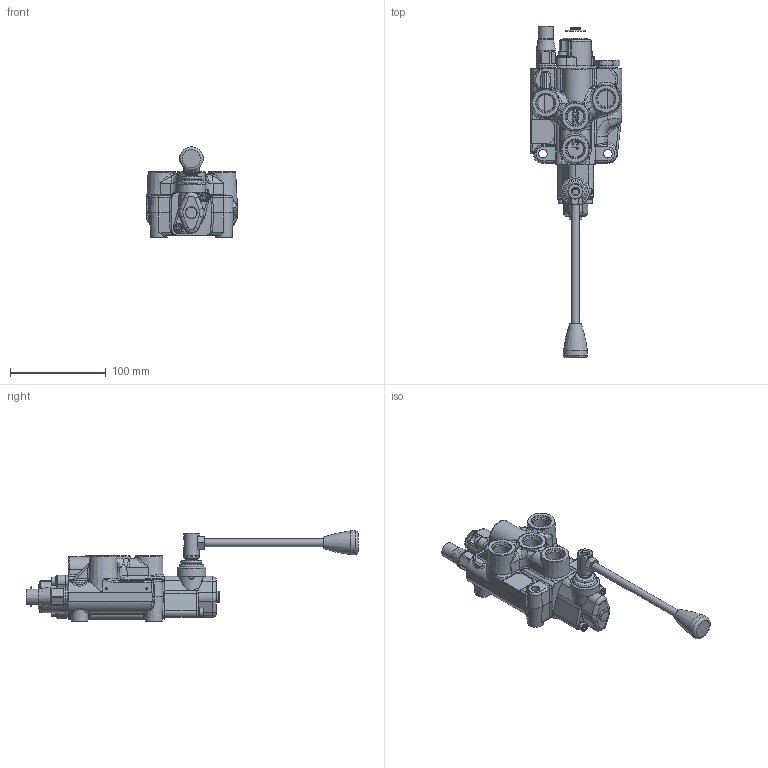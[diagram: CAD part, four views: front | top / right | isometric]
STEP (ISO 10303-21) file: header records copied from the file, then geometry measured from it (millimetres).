
FILE_DESCRIPTION(/* description */ ('SINGLE SPOOL VALVE'),/* implementation_level */ '2;1');
FILE_NAME(/* name */ 'C:\Vault\Workspace\AssembliesValves\W_Wolverine\WVS\1Spool\WVS11B5C1.stp',/* time_stamp */ '2020-03-20T10:00:40-05:00',/* author */ ('PetersW'),/* organization */ ('PRINCE MANUFACTURING CORP.'),/* preprocessor_version */ 'ST-DEVELOPER v18',/* originating_system */ 'Autodesk Inventor 2020',/* authorisation */ '');
FILE_SCHEMA (('AUTOMOTIVE_DESIGN { 1 0 10303 214 3 1 1 }'));
Products named in the file (1): WVS11B5C1
Bounding box: 95.75 x 347.5 x 94.5 mm (x, y, z)
Surface area: 79258.6 mm2 (no closed solid volume)
Topology: 0 solids, 31 shells, 861 faces, 2385 edges, 1481 vertices
Faces by surface type: bspline 232, plane 216, cylinder 209, torus 95, cone 81, sphere 28
Full cylindrical faces by diameter (mm): 2 x2, 6 x3, 6.647 x3, 8 x2, 8.5 x4, 9 x3, 9.5 x4, 10 x1, 12 x2, 12.5 x1, 16 x2, 16.166 x1, 17.33 x6, 19.6 x1, 20 x2, 22 x1, 23 x1, 25 x1, 26 x2, 28 x1, 30 x1
Entity records: 45221 total; most frequent: CARTESIAN_POINT 23865, DIRECTION 4267, ORIENTED_EDGE 4200, EDGE_CURVE 2332, AXIS2_PLACEMENT_3D 1822, VERTEX_POINT 1481, CIRCLE 1028, EDGE_LOOP 935
